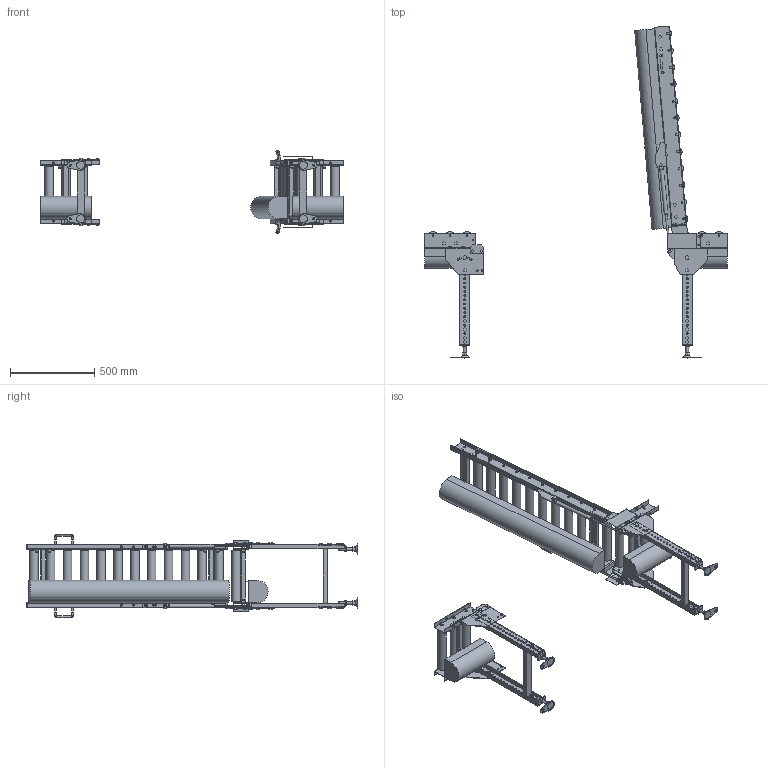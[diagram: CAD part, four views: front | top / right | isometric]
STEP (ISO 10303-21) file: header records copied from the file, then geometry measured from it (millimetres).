
FILE_DESCRIPTION (( 'STEP AP214' ), '1' );
FILE_NAME ('MCD50HU-R-315-100-1200.STEP', '2022-11-17T05:37:11', ( '' ), ( '' ), 'SwSTEP 2.0', 'SolidWorks 2017', '' );
FILE_SCHEMA (( 'AUTOMOTIVE_DESIGN' ));
Length unit declared in the file: millimetre
Products named in the file (1): MCD50HU-R-315-100-1200
Bounding box: 1791.65 x 1964.71 x 491.4 mm (x, y, z)
Volume: 41283287.7 mm3; surface area: 4248306.8 mm2
Topology: 5 solids, 31 shells, 2584 faces, 6406 edges, 4077 vertices
Faces by surface type: plane 2123, cylinder 443, cone 10, torus 8
Full cylindrical faces by diameter (mm): 8 x8, 8.5 x8, 9 x20, 10 x58, 10.5 x96, 11 x8, 12 x38, 13 x12, 14 x4, 15 x6, 15.4 x2, 15.7 x2, 16 x10, 17 x4, 18 x6, 18.4 x28, 18.5 x8, 21 x12, 22 x2, 50.8 x18
Entity records: 74470 total; most frequent: CARTESIAN_POINT 12724, DIRECTION 12450, ORIENTED_EDGE 11716, EDGE_CURVE 5858, VECTOR 4428, LINE 4428, AXIS2_PLACEMENT_3D 4011, VERTEX_POINT 3897
